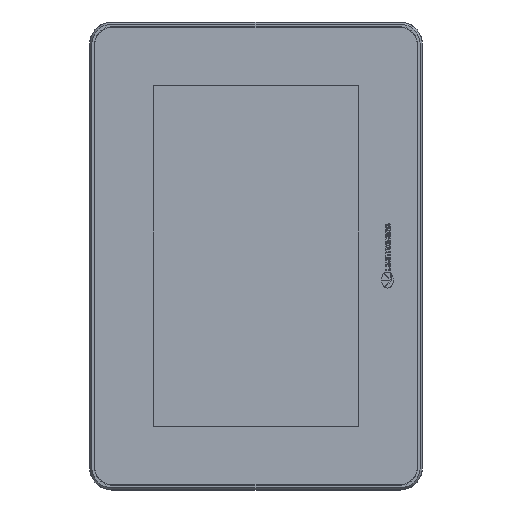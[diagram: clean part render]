
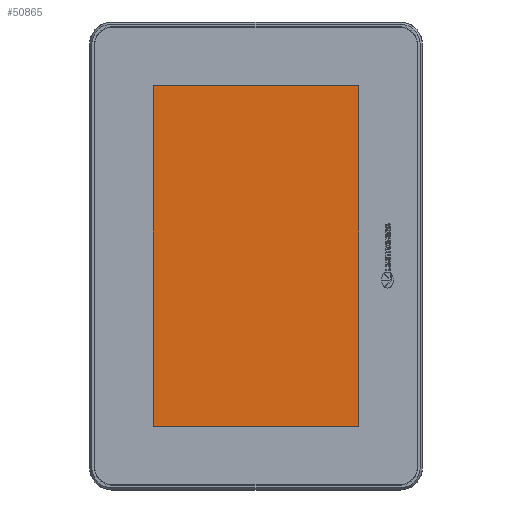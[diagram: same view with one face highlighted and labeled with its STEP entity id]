
A CAD part, left-side view. The second image highlights one B-rep face of the part: STEP entity #50865.
In plain terms, the highlighted planar face has unit normal (-1, 0, 0).
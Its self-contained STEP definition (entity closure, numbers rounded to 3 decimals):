
#5819 = AXIS2_PLACEMENT_3D ( 'NONE', #7684, #7696, #7697 ) ;
#7684 = CARTESIAN_POINT ( 'NONE',  ( -34.653, -54.324, 48.657 ) ) ;
#7692 = FACE_OUTER_BOUND ( 'NONE', #31322, .T. ) ;
#7694 = PLANE ( 'NONE',  #5819 ) ;
#7696 = DIRECTION ( 'NONE',  ( -1., 0., 0. ) ) ;
#7697 = DIRECTION ( 'NONE',  ( 0., 0., 1. ) ) ;
#10079 = VECTOR ( 'NONE', #19578, 1000. ) ;
#10081 = VECTOR ( 'NONE', #19584, 1000. ) ;
#10084 = VECTOR ( 'NONE', #19590, 1000. ) ;
#10087 = VECTOR ( 'NONE', #19596, 1000. ) ;
#19558 = LINE ( 'NONE', #19574, #10079 ) ;
#19564 = LINE ( 'NONE', #19580, #10081 ) ;
#19574 = CARTESIAN_POINT ( 'NONE',  ( -34.653, -54.324, -104.943 ) ) ;
#19578 = DIRECTION ( 'NONE',  ( 0., 0., 1. ) ) ;
#19580 = CARTESIAN_POINT ( 'NONE',  ( -34.653, -54.324, 48.657 ) ) ;
#19584 = DIRECTION ( 'NONE',  ( 0., 1., 0. ) ) ;
#19585 = LINE ( 'NONE', #19588, #10084 ) ;
#19588 = CARTESIAN_POINT ( 'NONE',  ( -34.653, 38.316, 48.657 ) ) ;
#19590 = DIRECTION ( 'NONE',  ( 0., 0., -1. ) ) ;
#19592 = LINE ( 'NONE', #19595, #10087 ) ;
#19595 = CARTESIAN_POINT ( 'NONE',  ( -34.653, 38.316, -104.943 ) ) ;
#19596 = DIRECTION ( 'NONE',  ( 0., -1., 0. ) ) ;
#31322 = EDGE_LOOP ( 'NONE', ( #63099, #63101, #63103, #63104 ) ) ;
#50865 = ADVANCED_FACE ( 'NONE', ( #7692 ), #7694, .T. ) ;
#52911 = EDGE_CURVE ( 'NONE', #64369, #64376, #19558, .T. ) ;
#52915 = EDGE_CURVE ( 'NONE', #64376, #64382, #19564, .T. ) ;
#52919 = EDGE_CURVE ( 'NONE', #64382, #64384, #19585, .T. ) ;
#52922 = EDGE_CURVE ( 'NONE', #64384, #64369, #19592, .T. ) ;
#63099 = ORIENTED_EDGE ( 'NONE', *, *, #52911, .T. ) ;
#63101 = ORIENTED_EDGE ( 'NONE', *, *, #52915, .T. ) ;
#63103 = ORIENTED_EDGE ( 'NONE', *, *, #52919, .T. ) ;
#63104 = ORIENTED_EDGE ( 'NONE', *, *, #52922, .T. ) ;
#64369 = VERTEX_POINT ( 'NONE', #108504 ) ;
#64376 = VERTEX_POINT ( 'NONE', #108508 ) ;
#64382 = VERTEX_POINT ( 'NONE', #108511 ) ;
#64384 = VERTEX_POINT ( 'NONE', #108512 ) ;
#108504 = CARTESIAN_POINT ( 'NONE',  ( -34.653, -54.324, -104.943 ) ) ;
#108508 = CARTESIAN_POINT ( 'NONE',  ( -34.653, -54.324, 48.657 ) ) ;
#108511 = CARTESIAN_POINT ( 'NONE',  ( -34.653, 38.316, 48.657 ) ) ;
#108512 = CARTESIAN_POINT ( 'NONE',  ( -34.653, 38.316, -104.943 ) ) ;
